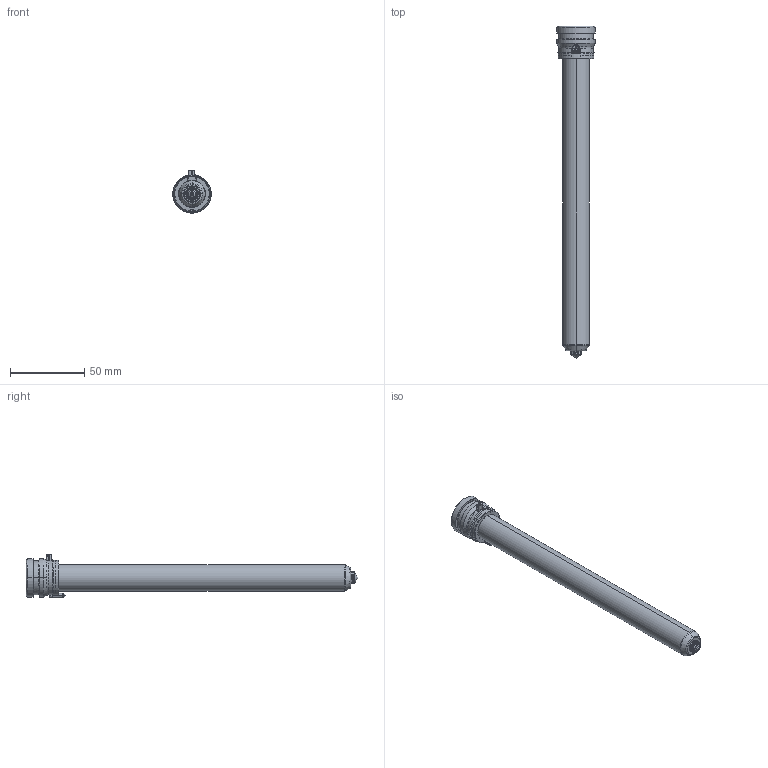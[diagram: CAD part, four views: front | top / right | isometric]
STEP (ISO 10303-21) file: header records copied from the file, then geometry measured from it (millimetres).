
FILE_DESCRIPTION((''),'2;1');
FILE_NAME('TH18206-A-1-PK-JG','2023-12-14T',('umhib'),('Thermoplay S.p.A.'),'PRO/ENGINEER BY PARAMETRIC TECHNOLOGY CORPORATION, 2017170','PRO/ENGINEER BY PARAMETRIC TECHNOLOGY CORPORATION, 2017170','');
FILE_SCHEMA(('CONFIG_CONTROL_DESIGN'));
Length unit declared in the file: millimetre
Products named in the file (1): TH18206-A-1-PK-JG
Bounding box: 26 x 224 x 29.5 mm (x, y, z)
Volume: 43939.5 mm3; surface area: 31904.4 mm2
Topology: 1 solids, 2 shells, 396 faces, 1032 edges, 641 vertices
Faces by surface type: cylinder 151, plane 85, cone 66, torus 56, bspline 24, sphere 12, extrusion 2
Entity records: 18034 total; most frequent: CARTESIAN_POINT 6134, ORIENTED_EDGE 2040, DIRECTION 2015, EDGE_CURVE 1022, AXIS2_PLACEMENT_3D 808, VERTEX_POINT 641, CIRCLE 437, EDGE_LOOP 416
